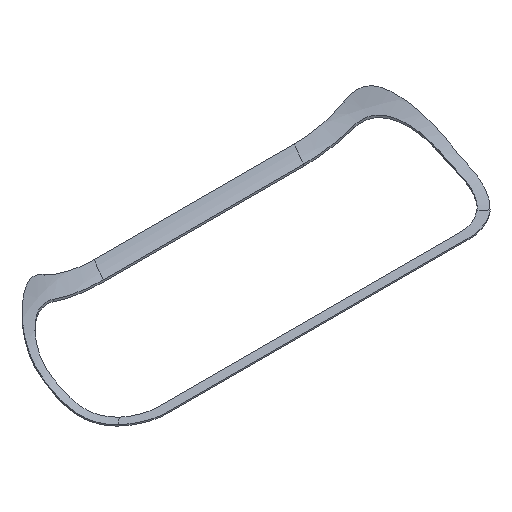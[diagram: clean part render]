
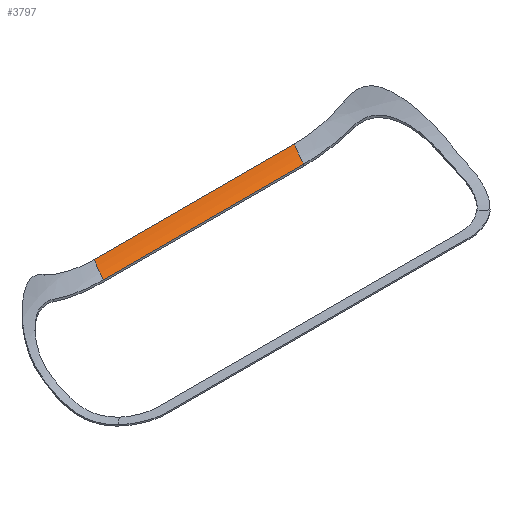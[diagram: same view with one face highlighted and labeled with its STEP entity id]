
A CAD part, isometric view. The second image highlights one B-rep face of the part: STEP entity #3797.
In plain terms, the highlighted cylindrical face has radius 10.85 mm (diameter 21.7 mm), a partial arc.
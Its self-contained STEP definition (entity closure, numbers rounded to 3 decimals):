
#102 = PLANE('',#103);
#103 = AXIS2_PLACEMENT_3D('',#104,#105,#106);
#104 = CARTESIAN_POINT('',(-24.4,61.4,-2.));
#105 = DIRECTION('',(0.,1.,0.));
#106 = DIRECTION('',(0.,-0.,1.));
#220 = PLANE('',#221);
#221 = AXIS2_PLACEMENT_3D('',#222,#223,#224);
#222 = CARTESIAN_POINT('',(-23.3,60.3,-2.));
#223 = DIRECTION('',(0.,1.,0.));
#224 = DIRECTION('',(0.,-0.,1.));
#980 = VERTEX_POINT('',#981);
#981 = CARTESIAN_POINT('',(-12.,60.3,5.012));
#1029 = TOROIDAL_SURFACE('',#1030,16.,10.85);
#1030 = AXIS2_PLACEMENT_3D('',#1031,#1032,#1033);
#1031 = CARTESIAN_POINT('',(-12.,36.,12.));
#1032 = DIRECTION('',(-0.,-0.,-1.));
#1033 = DIRECTION('',(0.,1.,0.));
#1058 = EDGE_CURVE('',#1059,#980,#1061,.T.);
#1059 = VERTEX_POINT('',#1060);
#1060 = CARTESIAN_POINT('',(12.,60.3,5.012));
#1061 = SURFACE_CURVE('',#1062,(#1066,#1073),.PCURVE_S1.);
#1062 = LINE('',#1063,#1064);
#1063 = CARTESIAN_POINT('',(12.,60.3,5.012));
#1064 = VECTOR('',#1065,1.);
#1065 = DIRECTION('',(-1.,-0.,-0.));
#1066 = PCURVE('',#220,#1067);
#1067 = DEFINITIONAL_REPRESENTATION('',(#1068),#1072);
#1068 = LINE('',#1069,#1070);
#1069 = CARTESIAN_POINT('',(7.012,35.3));
#1070 = VECTOR('',#1071,1.);
#1071 = DIRECTION('',(0.,-1.));
#1072 = ( GEOMETRIC_REPRESENTATION_CONTEXT(2) 
PARAMETRIC_REPRESENTATION_CONTEXT() REPRESENTATION_CONTEXT('2D SPACE',''
  ) );
#1073 = PCURVE('',#1074,#1079);
#1074 = CYLINDRICAL_SURFACE('',#1075,10.85);
#1075 = AXIS2_PLACEMENT_3D('',#1076,#1077,#1078);
#1076 = CARTESIAN_POINT('',(12.,52.,12.));
#1077 = DIRECTION('',(-1.,-0.,-0.));
#1078 = DIRECTION('',(0.,1.,0.));
#1079 = DEFINITIONAL_REPRESENTATION('',(#1080),#1083);
#1080 = B_SPLINE_CURVE_WITH_KNOTS('',1,(#1081,#1082),.UNSPECIFIED.,.F.,
  .F.,(2,2),(0.,24.),.PIECEWISE_BEZIER_KNOTS.);
#1081 = CARTESIAN_POINT('',(0.7,0.));
#1082 = CARTESIAN_POINT('',(0.7,24.));
#1083 = ( GEOMETRIC_REPRESENTATION_CONTEXT(2) 
PARAMETRIC_REPRESENTATION_CONTEXT() REPRESENTATION_CONTEXT('2D SPACE',''
  ) );
#1135 = TOROIDAL_SURFACE('',#1136,16.,10.85);
#1136 = AXIS2_PLACEMENT_3D('',#1137,#1138,#1139);
#1137 = CARTESIAN_POINT('',(12.,36.,12.));
#1138 = DIRECTION('',(-0.,-0.,-1.));
#1139 = DIRECTION('',(1.,0.,-0.));
#2265 = VERTEX_POINT('',#2266);
#2266 = CARTESIAN_POINT('',(-12.,61.4,6.581));
#2374 = EDGE_CURVE('',#2375,#2265,#2377,.T.);
#2375 = VERTEX_POINT('',#2376);
#2376 = CARTESIAN_POINT('',(12.,61.4,6.581));
#2377 = SURFACE_CURVE('',#2378,(#2382,#2389),.PCURVE_S1.);
#2378 = LINE('',#2379,#2380);
#2379 = CARTESIAN_POINT('',(12.,61.4,6.581));
#2380 = VECTOR('',#2381,1.);
#2381 = DIRECTION('',(-1.,-0.,-0.));
#2382 = PCURVE('',#102,#2383);
#2383 = DEFINITIONAL_REPRESENTATION('',(#2384),#2388);
#2384 = LINE('',#2385,#2386);
#2385 = CARTESIAN_POINT('',(8.581,36.4));
#2386 = VECTOR('',#2387,1.);
#2387 = DIRECTION('',(0.,-1.));
#2388 = ( GEOMETRIC_REPRESENTATION_CONTEXT(2) 
PARAMETRIC_REPRESENTATION_CONTEXT() REPRESENTATION_CONTEXT('2D SPACE',''
  ) );
#2389 = PCURVE('',#1074,#2390);
#2390 = DEFINITIONAL_REPRESENTATION('',(#2391),#2394);
#2391 = B_SPLINE_CURVE_WITH_KNOTS('',1,(#2392,#2393),.UNSPECIFIED.,.F.,
  .F.,(2,2),(0.,24.),.PIECEWISE_BEZIER_KNOTS.);
#2392 = CARTESIAN_POINT('',(0.523,0.));
#2393 = CARTESIAN_POINT('',(0.523,24.));
#2394 = ( GEOMETRIC_REPRESENTATION_CONTEXT(2) 
PARAMETRIC_REPRESENTATION_CONTEXT() REPRESENTATION_CONTEXT('2D SPACE',''
  ) );
#3409 = EDGE_CURVE('',#2375,#1059,#3410,.T.);
#3410 = SURFACE_CURVE('',#3411,(#3416,#3422),.PCURVE_S1.);
#3411 = CIRCLE('',#3412,10.85);
#3412 = AXIS2_PLACEMENT_3D('',#3413,#3414,#3415);
#3413 = CARTESIAN_POINT('',(12.,52.,12.));
#3414 = DIRECTION('',(-1.,0.,0.));
#3415 = DIRECTION('',(0.,1.,-0.));
#3416 = PCURVE('',#1135,#3417);
#3417 = DEFINITIONAL_REPRESENTATION('',(#3418),#3421);
#3418 = B_SPLINE_CURVE_WITH_KNOTS('',1,(#3419,#3420),.UNSPECIFIED.,.F.,
  .F.,(2,2),(0.,1.571),.PIECEWISE_BEZIER_KNOTS.);
#3419 = CARTESIAN_POINT('',(4.712,0.));
#3420 = CARTESIAN_POINT('',(4.712,1.571));
#3421 = ( GEOMETRIC_REPRESENTATION_CONTEXT(2) 
PARAMETRIC_REPRESENTATION_CONTEXT() REPRESENTATION_CONTEXT('2D SPACE',''
  ) );
#3422 = PCURVE('',#1074,#3423);
#3423 = DEFINITIONAL_REPRESENTATION('',(#3424),#3427);
#3424 = B_SPLINE_CURVE_WITH_KNOTS('',1,(#3425,#3426),.UNSPECIFIED.,.F.,
  .F.,(2,2),(0.,1.571),.PIECEWISE_BEZIER_KNOTS.);
#3425 = CARTESIAN_POINT('',(0.,0.));
#3426 = CARTESIAN_POINT('',(1.571,0.));
#3427 = ( GEOMETRIC_REPRESENTATION_CONTEXT(2) 
PARAMETRIC_REPRESENTATION_CONTEXT() REPRESENTATION_CONTEXT('2D SPACE',''
  ) );
#3797 = ADVANCED_FACE('',(#3798),#1074,.F.);
#3798 = FACE_BOUND('',#3799,.F.);
#3799 = EDGE_LOOP('',(#3800,#3801,#3802,#3803));
#3800 = ORIENTED_EDGE('',*,*,#2374,.F.);
#3801 = ORIENTED_EDGE('',*,*,#3409,.T.);
#3802 = ORIENTED_EDGE('',*,*,#1058,.T.);
#3803 = ORIENTED_EDGE('',*,*,#3804,.F.);
#3804 = EDGE_CURVE('',#2265,#980,#3805,.T.);
#3805 = SURFACE_CURVE('',#3806,(#3811,#3817),.PCURVE_S1.);
#3806 = CIRCLE('',#3807,10.85);
#3807 = AXIS2_PLACEMENT_3D('',#3808,#3809,#3810);
#3808 = CARTESIAN_POINT('',(-12.,52.,12.));
#3809 = DIRECTION('',(-1.,0.,0.));
#3810 = DIRECTION('',(0.,1.,0.));
#3811 = PCURVE('',#1074,#3812);
#3812 = DEFINITIONAL_REPRESENTATION('',(#3813),#3816);
#3813 = B_SPLINE_CURVE_WITH_KNOTS('',1,(#3814,#3815),.UNSPECIFIED.,.F.,
  .F.,(2,2),(0.,1.571),.PIECEWISE_BEZIER_KNOTS.);
#3814 = CARTESIAN_POINT('',(0.,24.));
#3815 = CARTESIAN_POINT('',(1.571,24.));
#3816 = ( GEOMETRIC_REPRESENTATION_CONTEXT(2) 
PARAMETRIC_REPRESENTATION_CONTEXT() REPRESENTATION_CONTEXT('2D SPACE',''
  ) );
#3817 = PCURVE('',#1029,#3818);
#3818 = DEFINITIONAL_REPRESENTATION('',(#3819),#3822);
#3819 = B_SPLINE_CURVE_WITH_KNOTS('',1,(#3820,#3821),.UNSPECIFIED.,.F.,
  .F.,(2,2),(0.,1.571),.PIECEWISE_BEZIER_KNOTS.);
#3820 = CARTESIAN_POINT('',(6.283,0.));
#3821 = CARTESIAN_POINT('',(6.283,1.571));
#3822 = ( GEOMETRIC_REPRESENTATION_CONTEXT(2) 
PARAMETRIC_REPRESENTATION_CONTEXT() REPRESENTATION_CONTEXT('2D SPACE',''
  ) );
